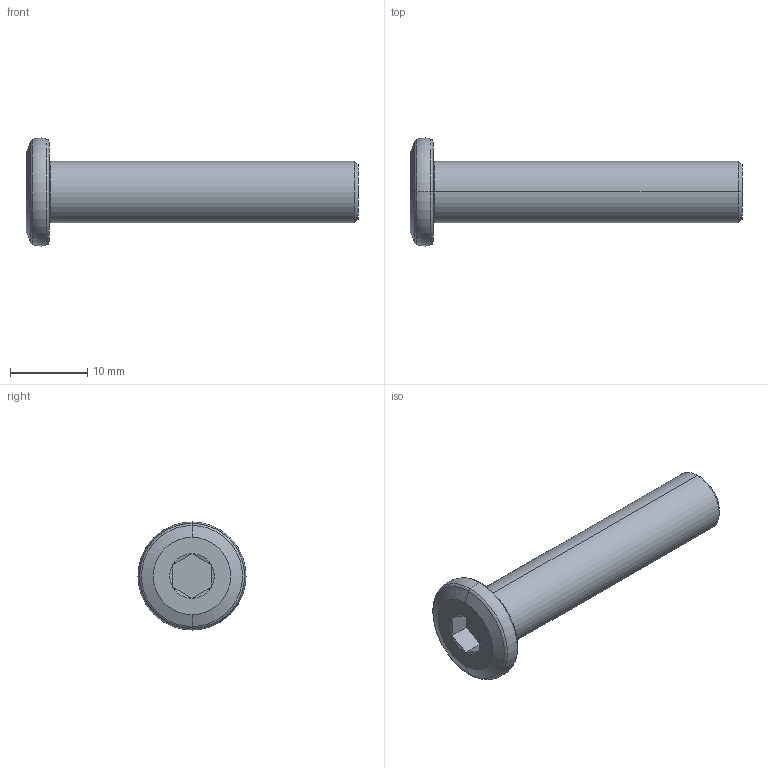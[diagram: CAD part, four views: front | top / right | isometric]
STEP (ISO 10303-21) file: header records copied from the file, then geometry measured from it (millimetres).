
FILE_DESCRIPTION (( 'STEP AP203' ), '1' );
FILE_NAME ('LGD-304D-M8x40.STEP', '2026-08-13T08:28:21', ( '' ), ( '' ), 'SwSTEP 2.0', 'SolidWorks 2020', '' );
FILE_SCHEMA (( 'CONFIG_CONTROL_DESIGN' ));
Length unit declared in the file: millimetre
Products named in the file (1): LGD-304D-M8x40
Bounding box: 43 x 14 x 14 mm (x, y, z)
Volume: 2369.1 mm3; surface area: 1429.4 mm2
Topology: 1 solids, 1 shells, 30 faces, 56 edges, 30 vertices
Faces by surface type: cone 10, plane 10, torus 8, cylinder 2
Entity records: 827 total; most frequent: DIRECTION 144, CARTESIAN_POINT 143, ORIENTED_EDGE 112, AXIS2_PLACEMENT_3D 63, EDGE_CURVE 56, CIRCLE 32, EDGE_LOOP 32, ADVANCED_FACE 30
